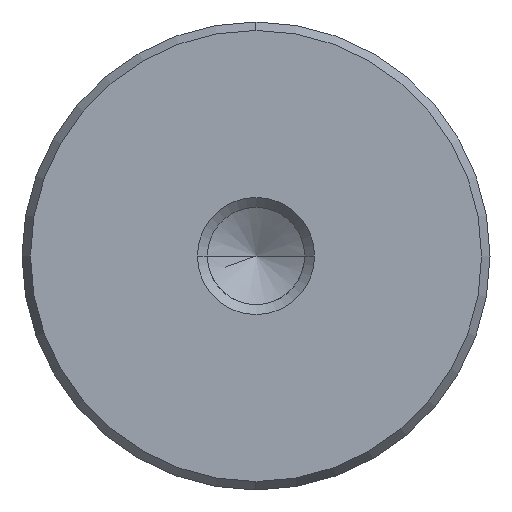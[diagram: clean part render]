
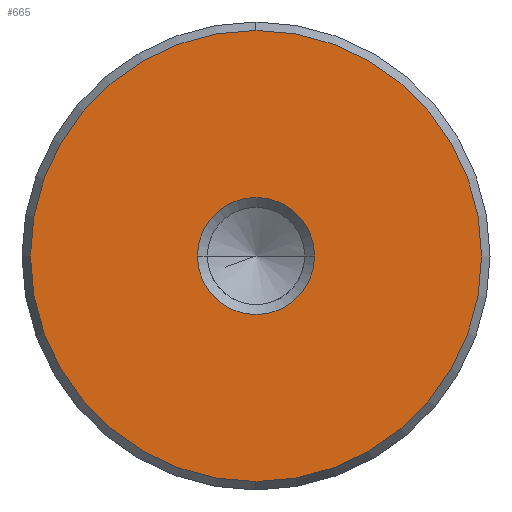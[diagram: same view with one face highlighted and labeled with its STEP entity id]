
A CAD part, left-side view. The second image highlights one B-rep face of the part: STEP entity #665.
In plain terms, the highlighted planar face has unit normal (-1, 0, 0).
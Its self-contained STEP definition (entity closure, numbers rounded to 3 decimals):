
#579=CARTESIAN_POINT('Vertex',(0.,0.,-15.423)) ;
#582=CARTESIAN_POINT('Axis2P3D Location',(0.,0.,0.)) ;
#586=CARTESIAN_POINT('Vertex',(0.,15.423,0.)) ;
#589=CARTESIAN_POINT('Axis2P3D Location',(0.,0.,0.)) ;
#593=CARTESIAN_POINT('Vertex',(0.,0.,15.423)) ;
#615=CARTESIAN_POINT('Axis2P3D Location',(0.,0.,0.)) ;
#619=CARTESIAN_POINT('Vertex',(0.,-15.423,0.)) ;
#622=CARTESIAN_POINT('Axis2P3D Location',(0.,0.,0.)) ;
#636=CARTESIAN_POINT('Axis2P3D Location',(0.,0.,0.)) ;
#647=CARTESIAN_POINT('Axis2P3D Location',(0.,0.,0.)) ;
#651=CARTESIAN_POINT('Vertex',(0.,4.,0.)) ;
#653=CARTESIAN_POINT('Vertex',(0.,-4.,0.)) ;
#656=CARTESIAN_POINT('Axis2P3D Location',(0.,0.,0.)) ;
#583=DIRECTION('Axis2P3D Direction',(1.,0.,-0.)) ;
#590=DIRECTION('Axis2P3D Direction',(1.,0.,-0.)) ;
#616=DIRECTION('Axis2P3D Direction',(1.,0.,-0.)) ;
#623=DIRECTION('Axis2P3D Direction',(1.,0.,-0.)) ;
#637=DIRECTION('Axis2P3D Direction',(1.,0.,-0.)) ;
#638=DIRECTION('Axis2P3D XDirection',(-0.,0.,-1.)) ;
#648=DIRECTION('Axis2P3D Direction',(1.,0.,-0.)) ;
#657=DIRECTION('Axis2P3D Direction',(1.,0.,-0.)) ;
#584=AXIS2_PLACEMENT_3D('Circle Axis2P3D',#582,#583,$) ;
#591=AXIS2_PLACEMENT_3D('Circle Axis2P3D',#589,#590,$) ;
#617=AXIS2_PLACEMENT_3D('Circle Axis2P3D',#615,#616,$) ;
#624=AXIS2_PLACEMENT_3D('Circle Axis2P3D',#622,#623,$) ;
#639=AXIS2_PLACEMENT_3D('Plane Axis2P3D',#636,#637,#638) ;
#649=AXIS2_PLACEMENT_3D('Circle Axis2P3D',#647,#648,$) ;
#658=AXIS2_PLACEMENT_3D('Circle Axis2P3D',#656,#657,$) ;
#642=ORIENTED_EDGE('',*,*,#588,.F.) ;
#643=ORIENTED_EDGE('',*,*,#626,.F.) ;
#644=ORIENTED_EDGE('',*,*,#621,.F.) ;
#645=ORIENTED_EDGE('',*,*,#595,.F.) ;
#662=ORIENTED_EDGE('',*,*,#655,.T.) ;
#663=ORIENTED_EDGE('',*,*,#660,.T.) ;
#664=FACE_BOUND('',#661,.T.) ;
#665=ADVANCED_FACE('720-32x450',(#646,#664),#640,.F.) ;
#585=CIRCLE('generated circle',#584,15.423) ;
#592=CIRCLE('generated circle',#591,15.423) ;
#618=CIRCLE('generated circle',#617,15.423) ;
#625=CIRCLE('generated circle',#624,15.423) ;
#650=CIRCLE('generated circle',#649,4.) ;
#659=CIRCLE('generated circle',#658,4.) ;
#588=EDGE_CURVE('',#580,#587,#585,.T.) ;
#595=EDGE_CURVE('',#587,#594,#592,.T.) ;
#621=EDGE_CURVE('',#594,#620,#618,.T.) ;
#626=EDGE_CURVE('',#620,#580,#625,.T.) ;
#655=EDGE_CURVE('',#652,#654,#650,.T.) ;
#660=EDGE_CURVE('',#654,#652,#659,.T.) ;
#641=EDGE_LOOP('',(#642,#643,#644,#645)) ;
#661=EDGE_LOOP('',(#662,#663)) ;
#646=FACE_OUTER_BOUND('',#641,.T.) ;
#640=PLANE('Plane',#639) ;
#580=VERTEX_POINT('',#579) ;
#587=VERTEX_POINT('',#586) ;
#594=VERTEX_POINT('',#593) ;
#620=VERTEX_POINT('',#619) ;
#652=VERTEX_POINT('',#651) ;
#654=VERTEX_POINT('',#653) ;
